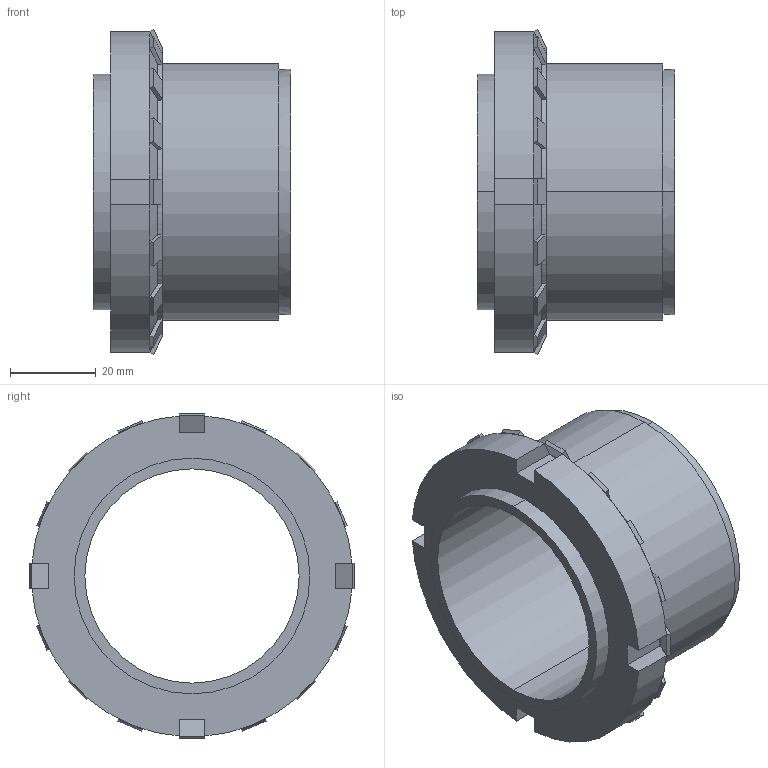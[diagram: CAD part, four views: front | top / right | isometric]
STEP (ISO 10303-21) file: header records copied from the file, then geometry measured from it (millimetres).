
FILE_DESCRIPTION (( 'STEP AP203' ), '1' );
FILE_NAME ('SI-50.STEP', '2009-09-29T17:23:11', ( 'USER' ), ( 'HOME' ), 'SwSTEP 2.0', 'SolidWorks 2007', '' );
FILE_SCHEMA (( 'CONFIG_CONTROL_DESIGN' ));
Length unit declared in the file: millimetre
Products named in the file (1): SI-50
Bounding box: 46 x 75.85 x 75.85 mm (x, y, z)
Volume: 71317 mm3; surface area: 79299.9 mm2
Topology: 19 solids, 19 shells, 232 faces, 574 edges, 380 vertices
Faces by surface type: plane 130, cylinder 94, cone 8
Entity records: 7067 total; most frequent: CARTESIAN_POINT 1259, DIRECTION 1220, ORIENTED_EDGE 1148, EDGE_CURVE 574, AXIS2_PLACEMENT_3D 429, VERTEX_POINT 380, VECTOR 362, LINE 362
